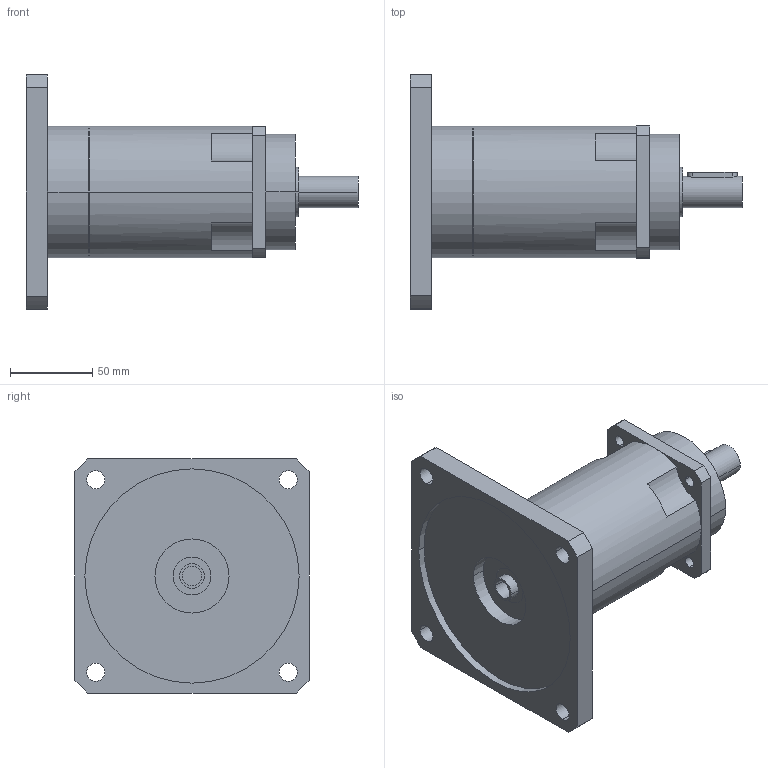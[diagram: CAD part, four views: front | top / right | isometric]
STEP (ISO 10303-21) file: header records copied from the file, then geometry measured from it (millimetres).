
FILE_DESCRIPTION(('CoCreate Modeling STEP Export'),'2;1');
FILE_NAME('GPR100_ig-48-64-80-100-120-144-180-216_19_B5_12.7_P16.stp','2014-08-26T11:54:24',(''),(''),'CoCreate Modeling STEP processor for AP214 (Solid Model)','CoCreate Modeling 16.00C 25-Feb-2009 (C) Parametric Technology GmbH','');
FILE_SCHEMA(('AUTOMOTIVE_DESIGN { 1 0 10303 214 1 1 1 1 }'));
Length unit declared in the file: millimetre
Products named in the file (2): GPR100_ig-48-64-80-100-120-144-180-216_19_B5_12.7_P16
Assembly tree (1 placements, depth 2):
  GPR100_ig-48-64-80-100-120-144-180-216_19_B5_12.7_P16
    GPR100_ig-48-64-80-100-120-144-180-216_19_B5_12.7_P16
Bounding box: 201.4 x 142 x 142 mm (x, y, z)
Volume: 928351.7 mm3; surface area: 96797.5 mm2
Topology: 1 solids, 1 shells, 89 faces, 243 edges, 165 vertices
Faces by surface type: cylinder 52, plane 31, cone 6
Entity records: 2592 total; most frequent: ORIENTED_EDGE 482, CARTESIAN_POINT 470, DIRECTION 386, EDGE_CURVE 241, VERTEX_POINT 165, AXIS2_PLACEMENT_3D 145, EDGE_LOOP 116, VECTOR 96
